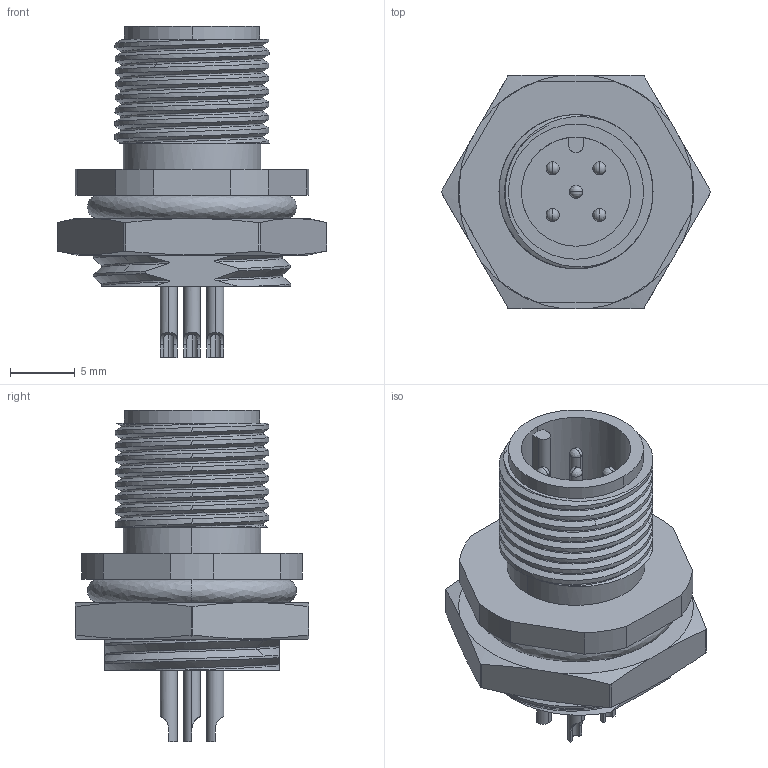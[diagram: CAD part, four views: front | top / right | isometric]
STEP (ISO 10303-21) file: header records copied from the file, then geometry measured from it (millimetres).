
FILE_DESCRIPTION (( 'STEP AP203' ), '1' );
FILE_NAME ('859-005-103RF04.STEP', '2025-08-08T13:08:37', ( '' ), ( '' ), 'SwSTEP 2.0', 'SolidWorks 2020', '' );
FILE_SCHEMA (( 'CONFIG_CONTROL_DESIGN' ));
Length unit declared in the file: millimetre
Products named in the file (1): 859-005-103RF04
Bounding box: 20.7 x 18 x 25.5 mm (x, y, z)
Volume: 2656.1 mm3; surface area: 2625.6 mm2
Topology: 8 solids, 8 shells, 239 faces, 651 edges, 404 vertices
Faces by surface type: cylinder 98, bspline 63, plane 50, cone 28
Entity records: 22920 total; most frequent: CARTESIAN_POINT 17524, ORIENTED_EDGE 1242, DIRECTION 892, EDGE_CURVE 621, VERTEX_POINT 404, AXIS2_PLACEMENT_3D 355, EDGE_LOOP 263, B_SPLINE_CURVE_WITH_KNOTS 259
